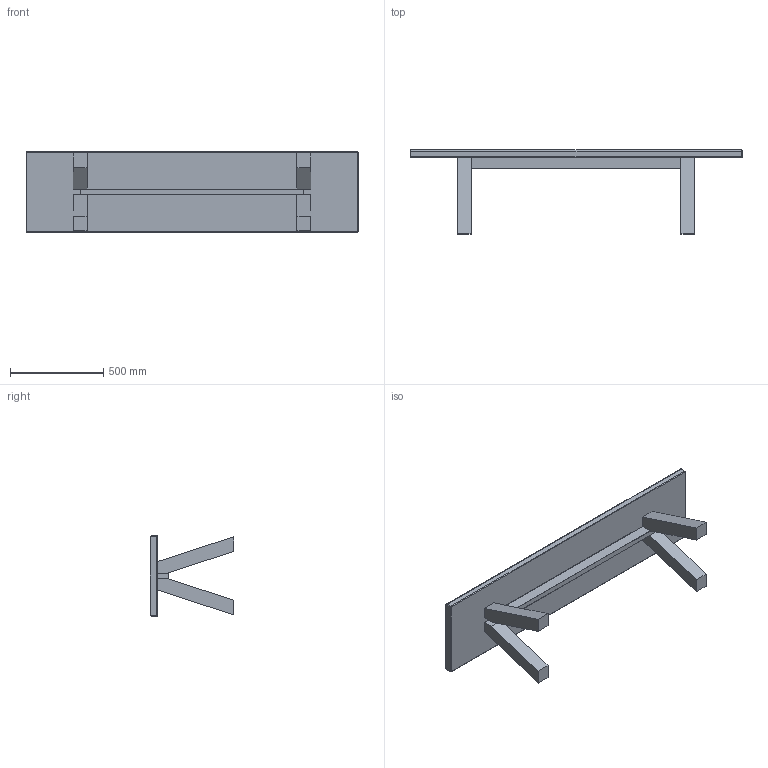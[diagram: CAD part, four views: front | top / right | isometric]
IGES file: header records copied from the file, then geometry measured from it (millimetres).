
Start section: SolidWorks IGES file using NURBS representation for surfaces
Global section: file name: W:\01-VICCARBE\PRODUCTOS\45-TRESTLE\04-MODELADOS (PLANOS)\WEB\IGES\viccarbe_trestle_simple.IGS; native system: SolidWorks 2013; preprocessor: SolidWorks 2013; author: Usuario; date: 140917.173338; units: millimetre
Bounding box: 1780 x 450 x 430 mm (x, y, z)
Surface area: 2656007.1 mm2 (no closed solid volume)
Topology: 0 solids, 0 shells, 66 faces, 276 edges, 272 vertices
Faces by surface type: bspline 66
